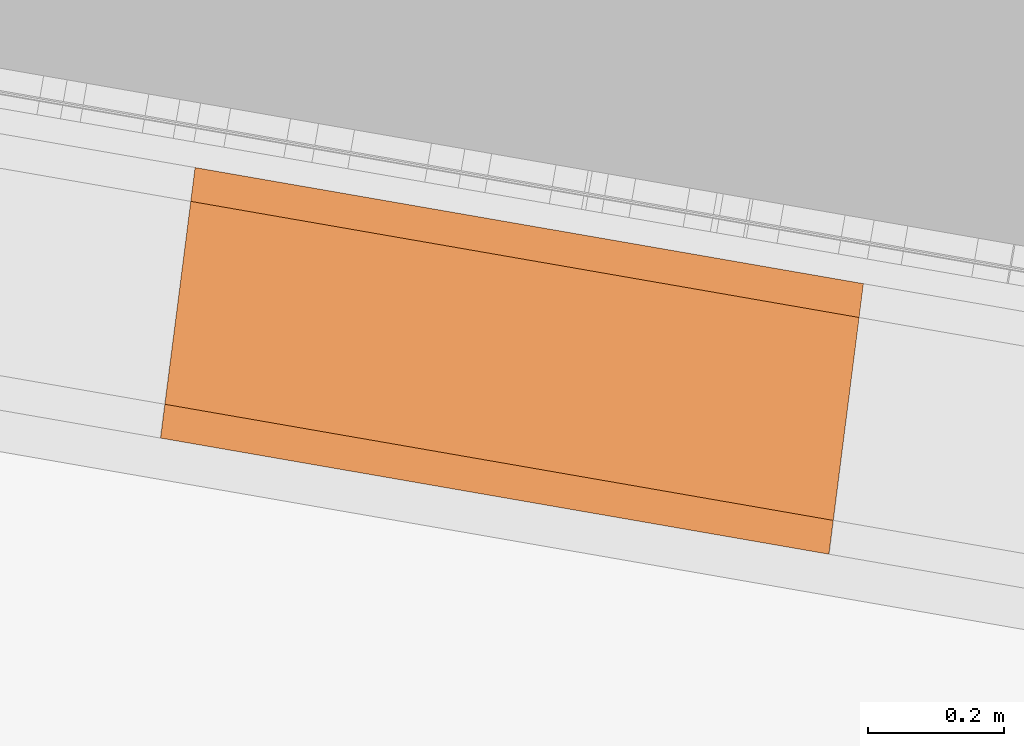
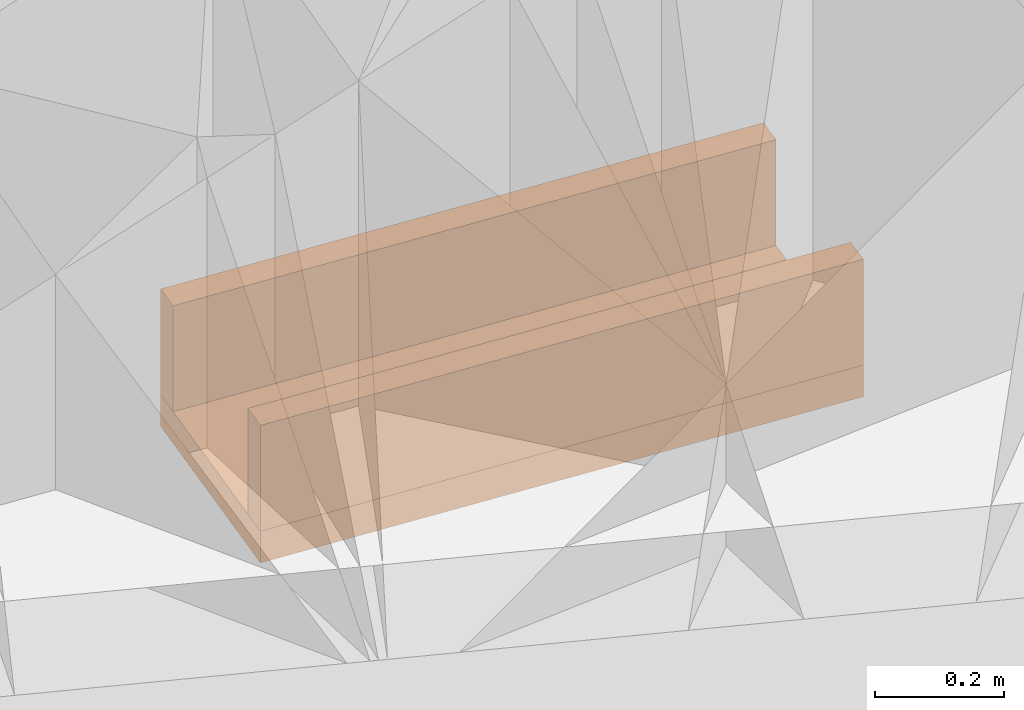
# Not in any storey, part 32 of 46: 3 proxies.
"""IFC4 model written with IfcOpenShell, lengths in metres."""

from ifc_helpers import new_model, si_unit, direction, frame, origin_with_axes, place, context, subcontext, project, spatial, polygons, material, element, save


model = new_model("IFC4")

# Units and contexts
model_context = context("Model", 3, precision=1e-05, world=origin_with_axes(), true_north=direction((0.0, 1.0)))
body_context = subcontext(model_context, "Body", "Model", "MODEL_VIEW")
ifc_project = project(units=[si_unit("VOLUMEUNIT", "CUBIC_METRE"), si_unit("LENGTHUNIT", "METRE"), si_unit("AREAUNIT", "SQUARE_METRE")], contexts=[model_context])

# Site
site_placement = place(None, origin_with_axes())
site = spatial("IfcSite", under=ifc_project, at=site_placement, Name="Lares · Rua das Mercês · artigo 4771")

# Proxies
ifc_material = material(Name="Caleiras · betão", Category="concrete")
proxy_1_placement = place(site_placement, frame((0.0, 0.0, 0.0), z_axis=(0.0, 0.0, 1.0), x_axis=(1.0, -1.03767253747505e-17, 0.0)))
element("IfcBuildingElementProxy", 1, at=proxy_1_placement, inside=site, material=ifc_material, Name="Acesso · canal lateral", ObjectType="Acesso · canal lateral", PredefinedType="USERDEFINED", context=body_context, shape_type="Tessellation", body=[
    polygons([(63.6076843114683, 9.0415021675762, 14.379038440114), (63.6583137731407, 9.43828505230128, 14.379038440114), (64.6386270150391, 9.2679694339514, 14.4534964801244), (64.5879975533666, 8.87118654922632, 14.4534964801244), (63.6076843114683, 9.0415021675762, 14.439038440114), (63.6583137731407, 9.43828505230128, 14.439038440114), (64.6386270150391, 9.2679694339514, 14.5134964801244), (64.5879975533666, 8.87118654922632, 14.5134964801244)], [[[4, 3, 2, 1]], [[5, 6, 7, 8]], [[1, 2, 6, 5]], [[2, 3, 7, 6]], [[3, 4, 8, 7]], [[4, 1, 5, 8]]]),
])
proxy_2_placement = place(site_placement, frame((0.0, 0.0, 0.0), z_axis=(0.0, 0.0, 1.0), x_axis=(1.0, -1.03767253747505e-17, 0.0)))
element("IfcBuildingElementProxy", 2, at=proxy_2_placement, inside=site, material=ifc_material, Name="Acesso · canal lateral", ObjectType="Acesso · canal lateral", PredefinedType="USERDEFINED", context=body_context, shape_type="Tessellation", body=[
    polygons([(63.6076843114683, 9.0415021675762, 14.439038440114), (63.6140129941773, 9.09110002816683, 14.439038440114), (64.5943262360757, 8.92078440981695, 14.5134964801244), (64.5879975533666, 8.87118654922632, 14.5134964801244), (63.6076843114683, 9.0415021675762, 14.639038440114), (63.6140129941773, 9.09110002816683, 14.639038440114), (64.5943262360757, 8.92078440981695, 14.7134964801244), (64.5879975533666, 8.87118654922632, 14.7134964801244)], [[[4, 3, 2, 1]], [[5, 6, 7, 8]], [[1, 2, 6, 5]], [[2, 3, 7, 6]], [[3, 4, 8, 7]], [[4, 1, 5, 8]]]),
])
proxy_3_placement = place(site_placement, frame((0.0, 0.0, 0.0), z_axis=(0.0, 0.0, 1.0), x_axis=(1.0, -1.03767253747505e-17, 0.0)))
element("IfcBuildingElementProxy", 3, at=proxy_3_placement, inside=site, material=ifc_material, Name="Acesso · canal lateral", ObjectType="Acesso · canal lateral", PredefinedType="USERDEFINED", context=body_context, shape_type="Tessellation", body=[
    polygons([(63.6519850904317, 9.38868719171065, 14.439038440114), (63.6583137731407, 9.43828505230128, 14.439038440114), (64.638627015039, 9.26796943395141, 14.5134964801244), (64.63229833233, 9.21837157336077, 14.5134964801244), (63.6519850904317, 9.38868719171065, 14.639038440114), (63.6583137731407, 9.43828505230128, 14.639038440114), (64.638627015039, 9.26796943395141, 14.7134964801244), (64.63229833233, 9.21837157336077, 14.7134964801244)], [[[4, 3, 2, 1]], [[5, 6, 7, 8]], [[1, 2, 6, 5]], [[2, 3, 7, 6]], [[3, 4, 8, 7]], [[4, 1, 5, 8]]]),
])

save(model, "model.ifc")
